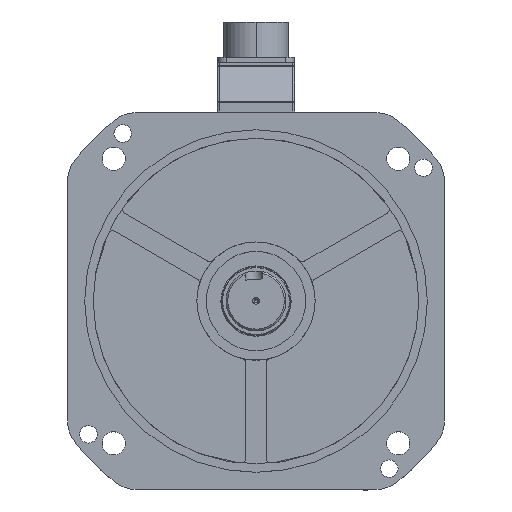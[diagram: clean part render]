
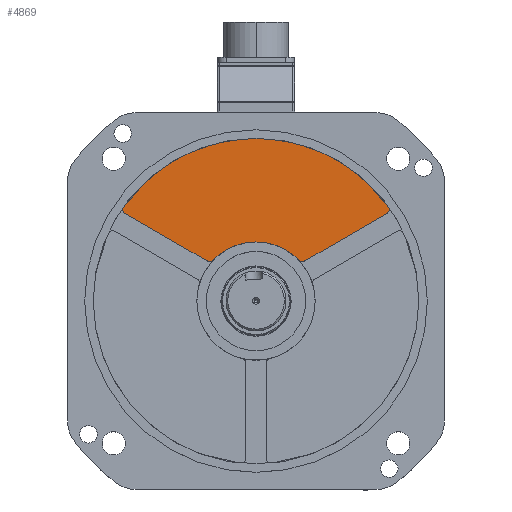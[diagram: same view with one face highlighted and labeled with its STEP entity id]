
A CAD part, top view. The second image highlights one B-rep face of the part: STEP entity #4869.
In plain terms, the highlighted planar face has unit normal (0, 0, 1).
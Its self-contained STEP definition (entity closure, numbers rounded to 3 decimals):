
#526 = EDGE_CURVE ( 'NONE', #46718, #8245, #35151, .T. ) ;
#1629 = DIRECTION ( 'NONE',  ( 1., 0., 0. ) ) ;
#3551 = CARTESIAN_POINT ( 'NONE',  ( 24.865, 23.917, 16. ) ) ;
#3994 = CIRCLE ( 'NONE', #43451, 95. ) ;
#4869 = ADVANCED_FACE ( 'NONE', ( #33484 ), #52823, .T. ) ;
#6791 = DIRECTION ( 'NONE',  ( 0., 0., -1. ) ) ;
#8217 = VERTEX_POINT ( 'NONE', #22704 ) ;
#8245 = VERTEX_POINT ( 'NONE', #23750 ) ;
#9236 = DIRECTION ( 'NONE',  ( 1., 0., 0. ) ) ;
#9401 = AXIS2_PLACEMENT_3D ( 'NONE', #27811, #42273, #37112 ) ;
#10304 = VECTOR ( 'NONE', #27013, 1000. ) ;
#10769 = EDGE_CURVE ( 'NONE', #43754, #42523, #26294, .T. ) ;
#10899 = CARTESIAN_POINT ( 'NONE',  ( 0., 0., 16. ) ) ;
#11568 = LINE ( 'NONE', #26339, #10304 ) ;
#11687 = ORIENTED_EDGE ( 'NONE', *, *, #14525, .F. ) ;
#12055 = CIRCLE ( 'NONE', #43878, 3. ) ;
#13368 = DIRECTION ( 'NONE',  ( 0., 0., 1. ) ) ;
#14379 = AXIS2_PLACEMENT_3D ( 'NONE', #58543, #17646, #58871 ) ;
#14525 = EDGE_CURVE ( 'NONE', #28305, #54321, #21319, .T. ) ;
#15585 = VERTEX_POINT ( 'NONE', #21984 ) ;
#17430 = CARTESIAN_POINT ( 'NONE',  ( -76.292, 50.976, 16. ) ) ;
#17646 = DIRECTION ( 'NONE',  ( 0., 0., 1. ) ) ;
#17793 = CARTESIAN_POINT ( 'NONE',  ( -74.792, 53.574, 16. ) ) ;
#19126 = AXIS2_PLACEMENT_3D ( 'NONE', #35337, #56289, #9236 ) ;
#20912 = AXIS2_PLACEMENT_3D ( 'NONE', #23327, #13368, #59391 ) ;
#20959 = VECTOR ( 'NONE', #23271, 1000. ) ;
#21319 = LINE ( 'NONE', #37113, #20959 ) ;
#21901 = DIRECTION ( 'NONE',  ( 0., 0., 1. ) ) ;
#21984 = CARTESIAN_POINT ( 'NONE',  ( -77.792, 53.574, 16. ) ) ;
#22704 = CARTESIAN_POINT ( 'NONE',  ( -77.231, 55.321, 16. ) ) ;
#23153 = CARTESIAN_POINT ( 'NONE',  ( 76.292, 50.976, 16. ) ) ;
#23271 = DIRECTION ( 'NONE',  ( -0.866, 0.5, 0. ) ) ;
#23327 = CARTESIAN_POINT ( 'NONE',  ( 74.792, 53.574, 16. ) ) ;
#23750 = CARTESIAN_POINT ( 'NONE',  ( 77.231, 55.321, 16. ) ) ;
#25748 = CARTESIAN_POINT ( 'NONE',  ( -24.865, 23.917, 16. ) ) ;
#26294 = CIRCLE ( 'NONE', #63631, 3. ) ;
#26339 = CARTESIAN_POINT ( 'NONE',  ( -3., 5.196, 16. ) ) ;
#27013 = DIRECTION ( 'NONE',  ( 0.866, 0.5, 0. ) ) ;
#27811 = CARTESIAN_POINT ( 'NONE',  ( 0., 0., 16. ) ) ;
#28305 = VERTEX_POINT ( 'NONE', #62750 ) ;
#28982 = ORIENTED_EDGE ( 'NONE', *, *, #526, .T. ) ;
#33484 = FACE_OUTER_BOUND ( 'NONE', #66417, .T. ) ;
#35151 = CIRCLE ( 'NONE', #20912, 3. ) ;
#35337 = CARTESIAN_POINT ( 'NONE',  ( -74.792, 53.574, 16. ) ) ;
#35998 = ORIENTED_EDGE ( 'NONE', *, *, #64039, .T. ) ;
#36831 = EDGE_CURVE ( 'NONE', #8217, #15585, #38875, .T. ) ;
#37112 = DIRECTION ( 'NONE',  ( 1., 0., 0. ) ) ;
#37113 = CARTESIAN_POINT ( 'NONE',  ( 3., 5.196, 16. ) ) ;
#37508 = ORIENTED_EDGE ( 'NONE', *, *, #49802, .T. ) ;
#38052 = CARTESIAN_POINT ( 'NONE',  ( 0., 0., 16. ) ) ;
#38875 = CIRCLE ( 'NONE', #19126, 3. ) ;
#39175 = AXIS2_PLACEMENT_3D ( 'NONE', #10899, #54777, #47336 ) ;
#42273 = DIRECTION ( 'NONE',  ( 0., 0., 1. ) ) ;
#42523 = VERTEX_POINT ( 'NONE', #60586 ) ;
#43451 = AXIS2_PLACEMENT_3D ( 'NONE', #38052, #6791, #1629 ) ;
#43754 = VERTEX_POINT ( 'NONE', #3551 ) ;
#43878 = AXIS2_PLACEMENT_3D ( 'NONE', #17793, #21901, #53524 ) ;
#45639 = CIRCLE ( 'NONE', #9401, 34.5 ) ;
#46718 = VERTEX_POINT ( 'NONE', #23153 ) ;
#47336 = DIRECTION ( 'NONE',  ( 1., 0., 0. ) ) ;
#49802 = EDGE_CURVE ( 'NONE', #42523, #46718, #11568, .T. ) ;
#51096 = ORIENTED_EDGE ( 'NONE', *, *, #66030, .T. ) ;
#51822 = ORIENTED_EDGE ( 'NONE', *, *, #10769, .T. ) ;
#52823 = PLANE ( 'NONE',  #39175 ) ;
#53510 = DIRECTION ( 'NONE',  ( 0., 0., 1. ) ) ;
#53524 = DIRECTION ( 'NONE',  ( 1., 0., 0. ) ) ;
#54202 = DIRECTION ( 'NONE',  ( 1., 0., 0. ) ) ;
#54321 = VERTEX_POINT ( 'NONE', #17430 ) ;
#54777 = DIRECTION ( 'NONE',  ( 0., 0., 1. ) ) ;
#55285 = ORIENTED_EDGE ( 'NONE', *, *, #58773, .F. ) ;
#56289 = DIRECTION ( 'NONE',  ( 0., 0., 1. ) ) ;
#57822 = ORIENTED_EDGE ( 'NONE', *, *, #36831, .T. ) ;
#58281 = EDGE_CURVE ( 'NONE', #43754, #65471, #45639, .T. ) ;
#58543 = CARTESIAN_POINT ( 'NONE',  ( -27.027, 25.996, 16. ) ) ;
#58773 = EDGE_CURVE ( 'NONE', #8217, #8245, #3994, .T. ) ;
#58871 = DIRECTION ( 'NONE',  ( 1., 0., 0. ) ) ;
#59391 = DIRECTION ( 'NONE',  ( 1., 0., 0. ) ) ;
#59884 = ORIENTED_EDGE ( 'NONE', *, *, #58281, .F. ) ;
#60586 = CARTESIAN_POINT ( 'NONE',  ( 28.527, 23.398, 16. ) ) ;
#62750 = CARTESIAN_POINT ( 'NONE',  ( -28.527, 23.398, 16. ) ) ;
#63477 = CARTESIAN_POINT ( 'NONE',  ( 27.027, 25.996, 16. ) ) ;
#63631 = AXIS2_PLACEMENT_3D ( 'NONE', #63477, #53510, #54202 ) ;
#63704 = CIRCLE ( 'NONE', #14379, 3. ) ;
#64039 = EDGE_CURVE ( 'NONE', #15585, #54321, #12055, .T. ) ;
#65471 = VERTEX_POINT ( 'NONE', #25748 ) ;
#66030 = EDGE_CURVE ( 'NONE', #28305, #65471, #63704, .T. ) ;
#66417 = EDGE_LOOP ( 'NONE', ( #28982, #55285, #57822, #35998, #11687, #51096, #59884, #51822, #37508 ) ) ;
